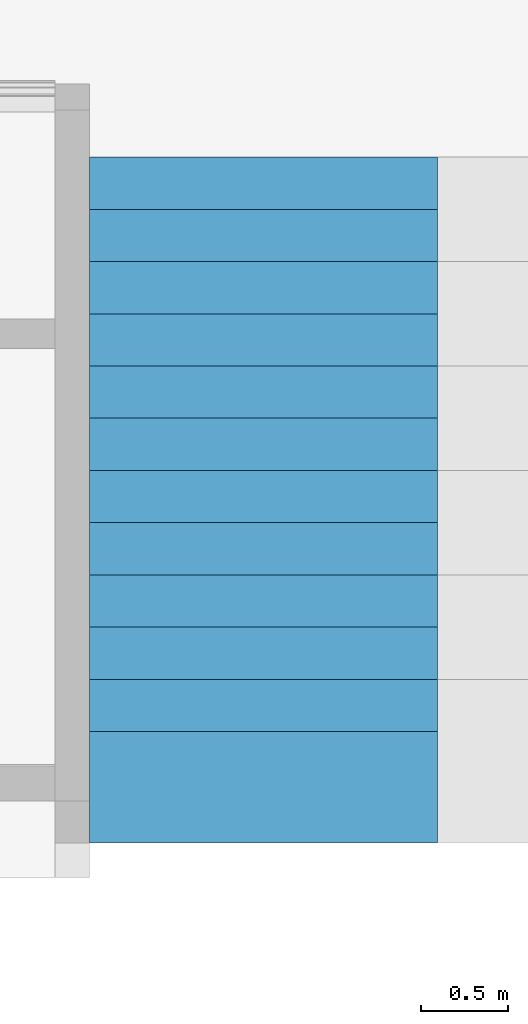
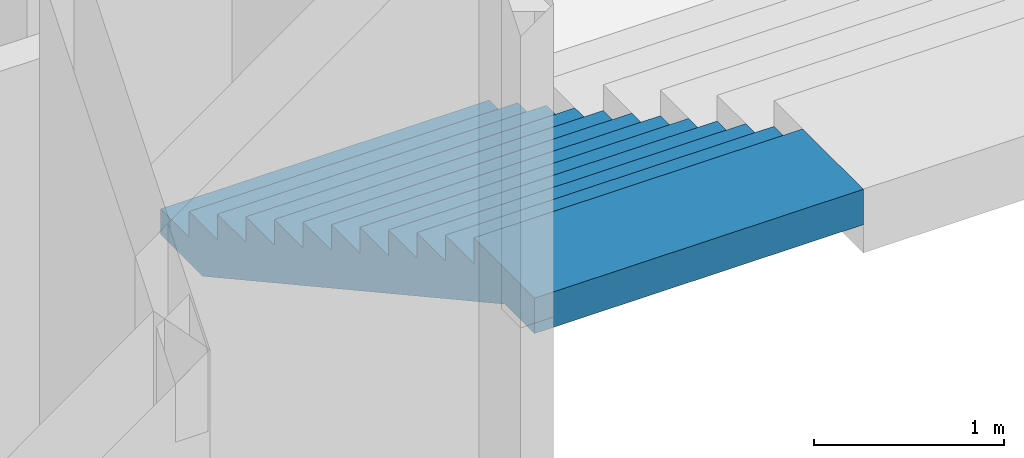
# One storey, part 44 of 89: 1 stair.
"""IFC2X3 building model written with IfcOpenShell, lengths in millimetres."""

from ifc_helpers import new_model, entity, si_unit, converted_unit, derived_unit, money_unit, direction, frame, origin_with_axes, place, context, subcontext, project, spatial, faceted_brep, material, material_list, element, save


model = new_model("IFC2X3")

# Units and contexts
model_context = context("Model", 3, precision=0.01, world=origin_with_axes(), true_north=direction((0.0, 1.0)))
body_context = subcontext(model_context, "Body", "Model", "MODEL_VIEW")
ifc_project = project(units=[si_unit("LENGTHUNIT", "METRE", prefix="MILLI"), si_unit("AREAUNIT", "SQUARE_METRE"), si_unit("VOLUMEUNIT", "CUBIC_METRE"), converted_unit("PLANEANGLEUNIT", "DEGREE", entity("IfcPlaneAngleMeasure", 0.0174532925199), si_unit("PLANEANGLEUNIT", "RADIAN"), dimensions=[0, 0, 0, 0, 0, 0, 0]), si_unit("SOLIDANGLEUNIT", "STERADIAN"), money_unit("EUR"), converted_unit("TIMEUNIT", "Year", entity("IfcTimeMeasure", 31556926.0), si_unit("TIMEUNIT", "SECOND"), dimensions=[0, 0, 1, 0, 0, 0, 0]), si_unit("MASSUNIT", "GRAM", prefix="KILO"), si_unit("THERMODYNAMICTEMPERATUREUNIT", "DEGREE_CELSIUS"), si_unit("LUMINOUSINTENSITYUNIT", "LUMEN"), si_unit("ENERGYUNIT", "JOULE", prefix="MEGA"), derived_unit("THERMALCONDUCTANCEUNIT", [(si_unit("POWERUNIT", "WATT"), 1), (si_unit("LENGTHUNIT", "METRE"), -1), (si_unit("THERMODYNAMICTEMPERATUREUNIT", "KELVIN"), -1)]), derived_unit("SPECIFICHEATCAPACITYUNIT", [(si_unit("ENERGYUNIT", "JOULE"), 1), (si_unit("MASSUNIT", "GRAM", prefix="KILO"), -1), (si_unit("THERMODYNAMICTEMPERATUREUNIT", "KELVIN"), -1)]), derived_unit("MASSDENSITYUNIT", [(si_unit("MASSUNIT", "GRAM", prefix="KILO"), 1), (si_unit("VOLUMEUNIT", "CUBIC_METRE"), -1)])], contexts=[model_context])

# Site, building, storey
site_placement = place(None, origin_with_axes())
site = spatial("IfcSite", under=ifc_project, at=site_placement, Name="Puškini 31, Narva", CompositionType="ELEMENT")
building_placement = place(site_placement, origin_with_axes())
building = spatial("IfcBuilding", under=site, at=building_placement, Name="Narva Riigigümnaasium", CompositionType="ELEMENT")
storey_placement = place(building_placement, frame((0.0, 0.0, -3300.0), z_axis=(0.0, 0.0, 1.0), x_axis=(1.0, 0.0, 0.0)))
storey = spatial("IfcBuildingStorey", under=building, at=storey_placement, Name="1.korrus -3.3", CompositionType="ELEMENT", Elevation=-3300.0)

# Stair
ifc_material_1 = material(Name="Betoon element")
ifc_material_2 = material(Name="Puit - Põrand")
ifc_material_list = material_list([ifc_material_1, ifc_material_2, ifc_material_2, ifc_material_2, ifc_material_2, ifc_material_2, ifc_material_2, ifc_material_2, ifc_material_2, ifc_material_2, ifc_material_2, ifc_material_2, ifc_material_2, ifc_material_2, ifc_material_2, ifc_material_2, ifc_material_2, ifc_material_2, ifc_material_2, ifc_material_2, ifc_material_2, ifc_material_2, ifc_material_2, ifc_material_2, ifc_material_2])
stair_placement = place(storey_placement, frame((36900.062395, 199039.487445, 0.0), z_axis=(0.0, 0.0, 1.0), x_axis=(-1.0, 0.0, 0.0)))
element("IfcStair", 1, at=stair_placement, inside=storey, material=ifc_material_list, Name="G-TR-04", ShapeType="NOTDEFINED", context=body_context, shape_type="Brep", body=[
    faceted_brep([(8.45631120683e-07, 3509.99999987, 1970.0), (8.45631120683e-07, 3509.99999987, 1805.0), (2000.06239531, 3509.99999987, 1805.0), (2000.06239531, 3509.99999987, 1970.0), (8.45631120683e-07, 3799.99999992, 1970.0), (8.45631120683e-07, 3799.99999992, 1980.0), (8.45631120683e-07, 4139.99999992, 1980.0), (8.45631120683e-07, 4139.99999992, 1752.0), (8.45631120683e-07, 3828.64408029, 1752.0), (8.45631120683e-07, 3799.99999992, 1736.2457558), (8.45631120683e-07, 3724.99999991, 1694.9957558), (8.45631120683e-07, 3649.9999999, 1653.7457558), (8.45631120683e-07, 3574.99999988, 1612.4957558), (8.45631120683e-07, 3499.99999987, 1571.2457558), (8.45631120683e-07, 3424.99999986, 1529.9957558), (8.45631120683e-07, 3349.99999985, 1488.7457558), (8.45631120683e-07, 3274.99999984, 1447.4957558), (8.45631120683e-07, 3199.99999982, 1406.2457558), (8.45631120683e-07, 3124.99999981, 1364.9957558), (8.45631120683e-07, 3049.9999998, 1323.7457558), (8.45631120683e-07, 2974.99999979, 1282.4957558), (8.45631120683e-07, 2899.99999977, 1241.2457558), (8.45631120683e-07, 2824.99999976, 1199.9957558), (8.45631120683e-07, 2749.99999975, 1158.7457558), (8.45631120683e-07, 2674.99999974, 1117.4957558), (8.45631120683e-07, 2599.99999973, 1076.2457558), (8.45631120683e-07, 2524.99999971, 1034.9957558), (8.45631120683e-07, 2449.9999997, 993.745755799), (8.45631120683e-07, 2374.99999969, 952.495755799), (8.45631120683e-07, 2299.99999968, 911.245755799), (8.45631120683e-07, 2224.99999966, 869.995755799), (8.45631120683e-07, 2149.99999965, 828.745755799), (8.45631120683e-07, 2074.99999964, 787.495755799), (8.45631120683e-07, 1999.99999963, 746.245755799), (8.45631120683e-07, 1924.99999962, 704.995755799), (8.45624015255e-07, 1849.9999996, 663.745755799), (8.45631120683e-07, 1774.99999959, 622.495755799), (8.45631120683e-07, 1699.99999958, 581.245755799), (8.45624015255e-07, 1624.99999957, 539.995755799), (8.45624015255e-07, 1549.99999956, 498.745755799), (8.45624015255e-07, 1474.99999954, 457.495755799), (8.45624015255e-07, 1399.99999953, 416.245755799), (8.45624015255e-07, 1324.99999952, 374.995755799), (8.45624015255e-07, 1249.99999951, 333.745755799), (8.45631120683e-07, 1174.99999949, 292.495755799), (8.45631120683e-07, 1099.99999948, 251.245755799), (8.45624015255e-07, 1024.99999947, 209.995755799), (8.45624015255e-07, 949.999999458, 168.745755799), (8.45624015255e-07, 874.999999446, 127.495755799), (8.45624015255e-07, 799.999999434, 86.2457557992), (8.45624015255e-07, 724.999999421, 44.9957557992), (8.45624015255e-07, 649.999999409, 3.74575579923), (8.45624015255e-07, 643.189534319, 0.0), (8.45631120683e-07, 209.999999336, 0.0), (8.45631120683e-07, 209.999999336, 155.0), (8.45631120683e-07, 509.999999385, 155.0), (8.45631120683e-07, 509.999999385, 320.0), (8.45631120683e-07, 809.999999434, 320.0), (8.45631120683e-07, 809.999999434, 485.0), (8.45631120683e-07, 1109.99999948, 485.0), (8.45631120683e-07, 1109.99999948, 650.0), (8.45631120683e-07, 1409.99999953, 650.0), (8.45631120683e-07, 1409.99999953, 815.0), (8.45631120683e-07, 1709.99999958, 815.0), (8.45631120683e-07, 1709.99999958, 980.0), (8.45631120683e-07, 2009.99999963, 980.0), (8.45631120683e-07, 2009.99999963, 1145.0), (8.45631120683e-07, 2309.99999968, 1145.0), (8.45631120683e-07, 2309.99999968, 1310.0), (8.45631120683e-07, 2609.99999973, 1310.0), (8.45631120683e-07, 2609.99999973, 1475.0), (8.45631120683e-07, 2909.99999977, 1475.0), (8.45631120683e-07, 2909.99999977, 1640.0), (8.45631120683e-07, 3209.99999982, 1640.0), (8.45631120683e-07, 3209.99999982, 1805.0), (2000.06239531, 3209.99999982, 1805.0), (2000.06239531, 3799.99999992, 1970.0), (2000.06239531, 3209.99999982, 1640.0), (2000.06239531, 2909.99999977, 1640.0), (2000.06239531, 2909.99999977, 1475.0), (2000.06239531, 2609.99999973, 1475.0), (2000.06239531, 2609.99999973, 1310.0), (2000.06239531, 2309.99999968, 1310.0), (2000.06239531, 2309.99999968, 1145.0), (2000.06239531, 2009.99999963, 1145.0), (2000.06239531, 2009.99999963, 980.0), (2000.06239531, 1709.99999958, 980.0), (2000.06239531, 1709.99999958, 815.0), (2000.06239531, 1409.99999953, 815.0), (2000.06239531, 1409.99999953, 650.0), (2000.06239531, 1109.99999948, 650.0), (2000.06239531, 1109.99999948, 485.0), (2000.06239531, 809.999999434, 485.0), (2000.06239531, 809.999999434, 320.0), (2000.06239531, 509.999999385, 320.0), (2000.06239531, 509.999999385, 155.0), (2000.06239531, 209.999999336, 155.0), (2000.06239531, 209.999999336, 0.0), (2000.06239531, 643.189534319, 0.0), (2000.06239531, 649.999999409, 3.74575579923), (2000.06239531, 724.999999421, 44.9957557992), (2000.06239531, 799.999999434, 86.2457557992), (2000.06239531, 874.999999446, 127.495755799), (2000.06239531, 949.999999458, 168.745755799), (2000.06239531, 1024.99999947, 209.995755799), (2000.06239531, 1099.99999948, 251.245755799), (2000.06239531, 1174.99999949, 292.495755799), (2000.06239531, 1249.99999951, 333.745755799), (2000.06239531, 1324.99999952, 374.995755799), (2000.06239531, 1399.99999953, 416.245755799), (2000.06239531, 1474.99999954, 457.495755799), (2000.06239531, 1549.99999956, 498.745755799), (2000.06239531, 1624.99999957, 539.995755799), (2000.06239531, 1699.99999958, 581.245755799), (2000.06239531, 1774.99999959, 622.495755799), (2000.06239531, 1849.9999996, 663.745755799), (2000.06239531, 1924.99999962, 704.995755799), (2000.06239531, 1999.99999963, 746.245755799), (2000.06239531, 2074.99999964, 787.495755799), (2000.06239531, 2149.99999965, 828.745755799), (2000.06239531, 2224.99999966, 869.995755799), (2000.06239531, 2299.99999968, 911.245755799), (2000.06239531, 2374.99999969, 952.495755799), (2000.06239531, 2449.9999997, 993.745755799), (2000.06239531, 2524.99999971, 1034.9957558), (2000.06239531, 2599.99999973, 1076.2457558), (2000.06239531, 2674.99999974, 1117.4957558), (2000.06239531, 2749.99999975, 1158.7457558), (2000.06239531, 2824.99999976, 1199.9957558), (2000.06239531, 2899.99999977, 1241.2457558), (2000.06239531, 2974.99999979, 1282.4957558), (2000.06239531, 3049.9999998, 1323.7457558), (2000.06239531, 3124.99999981, 1364.9957558), (2000.06239531, 3199.99999982, 1406.2457558), (2000.06239531, 3274.99999984, 1447.4957558), (2000.06239531, 3349.99999985, 1488.7457558), (2000.06239531, 3424.99999986, 1529.9957558), (2000.06239531, 3499.99999987, 1571.2457558), (2000.06239531, 3574.99999988, 1612.4957558), (2000.06239531, 3649.9999999, 1653.7457558), (2000.06239531, 3724.99999991, 1694.9957558), (2000.06239531, 3799.99999992, 1736.2457558), (2000.06239531, 3828.64408029, 1752.0), (2000.06239531, 4139.99999992, 1752.0), (2000.06239531, 4139.99999992, 1980.0), (2000.06239531, 3799.99999992, 1980.0)], [[[0, 1, 2, 3]], [[4, 5, 6, 7, 8, 9, 10, 11, 12, 13, 14, 15, 16, 17, 18, 19, 20, 21, 22, 23, 24, 25, 26, 27, 28, 29, 30, 31, 32, 33, 34, 35, 36, 37, 38, 39, 40, 41, 42, 43, 44, 45, 46, 47, 48, 49, 50, 51, 52, 53, 54, 55, 56, 57, 58, 59, 60, 61, 62, 63, 64, 65, 66, 67, 68, 69, 70, 71, 72, 73, 74, 1, 0]], [[1, 74, 75, 2]], [[76, 3, 2, 75, 77, 78, 79, 80, 81, 82, 83, 84, 85, 86, 87, 88, 89, 90, 91, 92, 93, 94, 95, 96, 97, 98, 99, 100, 101, 102, 103, 104, 105, 106, 107, 108, 109, 110, 111, 112, 113, 114, 115, 116, 117, 118, 119, 120, 121, 122, 123, 124, 125, 126, 127, 128, 129, 130, 131, 132, 133, 134, 135, 136, 137, 138, 139, 140, 141, 142, 143, 144, 145]], [[76, 4, 0, 3]], [[5, 4, 76, 145]], [[145, 144, 6, 5]], [[144, 143, 7, 6]], [[143, 142, 8, 7]], [[8, 142, 141, 140, 10, 9]], [[10, 140, 139, 11]], [[11, 139, 138, 12]], [[12, 138, 137, 13]], [[13, 137, 136, 14]], [[14, 136, 135, 15]], [[15, 135, 134, 16]], [[16, 134, 133, 17]], [[17, 133, 132, 18]], [[18, 132, 131, 19]], [[19, 131, 130, 20]], [[20, 130, 129, 21]], [[21, 129, 128, 22]], [[22, 128, 127, 23]], [[23, 127, 126, 24]], [[24, 126, 125, 25]], [[25, 125, 124, 26]], [[26, 124, 123, 27]], [[27, 123, 122, 28]], [[28, 122, 121, 29]], [[29, 121, 120, 30]], [[30, 120, 119, 31]], [[31, 119, 118, 32]], [[32, 118, 117, 33]], [[33, 117, 116, 34]], [[34, 116, 115, 35]], [[35, 115, 114, 36]], [[36, 114, 113, 37]], [[37, 113, 112, 38]], [[38, 112, 111, 39]], [[39, 111, 110, 40]], [[40, 110, 109, 41]], [[41, 109, 108, 42]], [[42, 108, 107, 43]], [[43, 107, 106, 44]], [[44, 106, 105, 45]], [[45, 105, 104, 46]], [[46, 104, 103, 47]], [[47, 103, 102, 48]], [[48, 102, 101, 49]], [[49, 101, 100, 50]], [[50, 100, 99, 51]], [[51, 99, 98, 52]], [[52, 98, 97, 53]], [[96, 54, 53, 97]], [[55, 54, 96, 95]], [[94, 56, 55, 95]], [[57, 56, 94, 93]], [[92, 58, 57, 93]], [[59, 58, 92, 91]], [[90, 60, 59, 91]], [[61, 60, 90, 89]], [[88, 62, 61, 89]], [[63, 62, 88, 87]], [[86, 64, 63, 87]], [[65, 64, 86, 85]], [[84, 66, 65, 85]], [[67, 66, 84, 83]], [[82, 68, 67, 83]], [[69, 68, 82, 81]], [[80, 70, 69, 81]], [[71, 70, 80, 79]], [[78, 72, 71, 79]], [[73, 72, 78, 77]], [[75, 74, 73, 77]]]),
    faceted_brep([(8.45631120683e-07, 199.999999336, 155.0), (2000.06239531, 199.999999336, 155.0), (2000.06239531, 209.999999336, 155.0), (8.45631120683e-07, 209.999999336, 155.0), (8.45631120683e-07, 199.999999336, 0.0), (2000.06239531, 199.999999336, 0.0), (2000.06239531, 209.999999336, 0.0), (8.45631120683e-07, 209.999999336, 0.0)], [[[0, 1, 2, 3]], [[4, 5, 1, 0]], [[1, 5, 6, 2]], [[3, 2, 6, 7]], [[0, 3, 7, 4]], [[7, 6, 5, 4]]]),
    faceted_brep([(8.45631120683e-07, 499.999999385, 320.0), (2000.06239531, 499.999999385, 320.0), (2000.06239531, 509.999999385, 320.0), (8.45631120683e-07, 509.999999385, 320.0), (8.45631120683e-07, 499.999999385, 165.0), (2000.06239531, 499.999999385, 165.0), (2000.06239531, 509.999999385, 165.0), (8.45631120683e-07, 509.999999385, 165.0)], [[[0, 1, 2, 3]], [[4, 5, 1, 0]], [[1, 5, 6, 2]], [[3, 2, 6, 7]], [[0, 3, 7, 4]], [[7, 6, 5, 4]]]),
    faceted_brep([(8.45631120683e-07, 799.999999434, 485.0), (2000.06239531, 799.999999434, 485.0), (2000.06239531, 809.999999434, 485.0), (8.45631120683e-07, 809.999999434, 485.0), (8.45631120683e-07, 799.999999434, 330.0), (2000.06239531, 799.999999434, 330.0), (2000.06239531, 809.999999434, 330.0), (8.45631120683e-07, 809.999999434, 330.0)], [[[0, 1, 2, 3]], [[4, 5, 1, 0]], [[1, 5, 6, 2]], [[3, 2, 6, 7]], [[0, 3, 7, 4]], [[7, 6, 5, 4]]]),
    faceted_brep([(8.45631120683e-07, 1099.99999948, 650.0), (2000.06239531, 1099.99999948, 650.0), (2000.06239531, 1109.99999948, 650.0), (8.45631120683e-07, 1109.99999948, 650.0), (8.45631120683e-07, 1099.99999948, 495.0), (2000.06239531, 1099.99999948, 495.0), (2000.06239531, 1109.99999948, 495.0), (8.45631120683e-07, 1109.99999948, 495.0)], [[[0, 1, 2, 3]], [[4, 5, 1, 0]], [[1, 5, 6, 2]], [[3, 2, 6, 7]], [[0, 3, 7, 4]], [[7, 6, 5, 4]]]),
    faceted_brep([(8.45631120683e-07, 1399.99999953, 815.0), (2000.06239531, 1399.99999953, 815.0), (2000.06239531, 1409.99999953, 815.0), (8.45631120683e-07, 1409.99999953, 815.0), (8.45631120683e-07, 1399.99999953, 660.0), (2000.06239531, 1399.99999953, 660.0), (2000.06239531, 1409.99999953, 660.0), (8.45631120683e-07, 1409.99999953, 660.0)], [[[0, 1, 2, 3]], [[4, 5, 1, 0]], [[1, 5, 6, 2]], [[3, 2, 6, 7]], [[0, 3, 7, 4]], [[7, 6, 5, 4]]]),
    faceted_brep([(8.45631120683e-07, 1699.99999958, 980.0), (2000.06239531, 1699.99999958, 980.0), (2000.06239531, 1709.99999958, 980.0), (8.45631120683e-07, 1709.99999958, 980.0), (8.45631120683e-07, 1699.99999958, 825.0), (2000.06239531, 1699.99999958, 825.0), (2000.06239531, 1709.99999958, 825.0), (8.45631120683e-07, 1709.99999958, 825.0)], [[[0, 1, 2, 3]], [[4, 5, 1, 0]], [[1, 5, 6, 2]], [[3, 2, 6, 7]], [[0, 3, 7, 4]], [[7, 6, 5, 4]]]),
    faceted_brep([(8.45631120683e-07, 1999.99999963, 1145.0), (2000.06239531, 1999.99999963, 1145.0), (2000.06239531, 2009.99999963, 1145.0), (8.45631120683e-07, 2009.99999963, 1145.0), (8.45631120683e-07, 1999.99999963, 990.0), (2000.06239531, 1999.99999963, 990.0), (2000.06239531, 2009.99999963, 990.0), (8.45631120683e-07, 2009.99999963, 990.0)], [[[0, 1, 2, 3]], [[4, 5, 1, 0]], [[1, 5, 6, 2]], [[3, 2, 6, 7]], [[0, 3, 7, 4]], [[7, 6, 5, 4]]]),
    faceted_brep([(8.45631120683e-07, 2299.99999968, 1310.0), (2000.06239531, 2299.99999968, 1310.0), (2000.06239531, 2309.99999968, 1310.0), (8.45631120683e-07, 2309.99999968, 1310.0), (8.45631120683e-07, 2299.99999968, 1155.0), (2000.06239531, 2299.99999968, 1155.0), (2000.06239531, 2309.99999968, 1155.0), (8.45631120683e-07, 2309.99999968, 1155.0)], [[[0, 1, 2, 3]], [[4, 5, 1, 0]], [[1, 5, 6, 2]], [[3, 2, 6, 7]], [[0, 3, 7, 4]], [[7, 6, 5, 4]]]),
    faceted_brep([(8.45631120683e-07, 2599.99999973, 1475.0), (2000.06239531, 2599.99999973, 1475.0), (2000.06239531, 2609.99999973, 1475.0), (8.45631120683e-07, 2609.99999973, 1475.0), (8.45631120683e-07, 2599.99999973, 1320.0), (2000.06239531, 2599.99999973, 1320.0), (2000.06239531, 2609.99999973, 1320.0), (8.45631120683e-07, 2609.99999973, 1320.0)], [[[0, 1, 2, 3]], [[4, 5, 1, 0]], [[1, 5, 6, 2]], [[3, 2, 6, 7]], [[0, 3, 7, 4]], [[7, 6, 5, 4]]]),
    faceted_brep([(8.45631120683e-07, 2899.99999977, 1640.0), (2000.06239531, 2899.99999977, 1640.0), (2000.06239531, 2909.99999977, 1640.0), (8.45631120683e-07, 2909.99999977, 1640.0), (8.45631120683e-07, 2899.99999977, 1485.0), (2000.06239531, 2899.99999977, 1485.0), (2000.06239531, 2909.99999977, 1485.0), (8.45631120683e-07, 2909.99999977, 1485.0)], [[[0, 1, 2, 3]], [[4, 5, 1, 0]], [[1, 5, 6, 2]], [[3, 2, 6, 7]], [[0, 3, 7, 4]], [[7, 6, 5, 4]]]),
    faceted_brep([(8.45631120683e-07, 3199.99999982, 1805.0), (2000.06239531, 3199.99999982, 1805.0), (2000.06239531, 3209.99999982, 1805.0), (8.45631120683e-07, 3209.99999982, 1805.0), (8.45631120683e-07, 3199.99999982, 1650.0), (2000.06239531, 3199.99999982, 1650.0), (2000.06239531, 3209.99999982, 1650.0), (8.45631120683e-07, 3209.99999982, 1650.0)], [[[0, 1, 2, 3]], [[4, 5, 1, 0]], [[1, 5, 6, 2]], [[3, 2, 6, 7]], [[0, 3, 7, 4]], [[7, 6, 5, 4]]]),
    faceted_brep([(8.45631120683e-07, 3499.99999987, 1970.0), (2000.06239531, 3499.99999987, 1970.0), (2000.06239531, 3509.99999987, 1970.0), (8.45631120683e-07, 3509.99999987, 1970.0), (8.45631120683e-07, 3499.99999987, 1815.0), (2000.06239531, 3499.99999987, 1815.0), (2000.06239531, 3509.99999987, 1815.0), (8.45631120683e-07, 3509.99999987, 1815.0)], [[[0, 1, 2, 3]], [[4, 5, 1, 0]], [[1, 5, 6, 2]], [[3, 2, 6, 7]], [[0, 3, 7, 4]], [[7, 6, 5, 4]]]),
    faceted_brep([(2000.06239531, 199.999999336, 155.0), (2000.06239531, 199.999999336, 165.0), (8.45631120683e-07, 199.999999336, 165.0), (8.45631120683e-07, 199.999999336, 155.0), (2000.06239531, 509.999999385, 155.0), (2000.06239531, 509.999999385, 165.0), (8.45631120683e-07, 509.999999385, 165.0), (8.45631120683e-07, 509.999999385, 155.0)], [[[0, 1, 2, 3]], [[4, 5, 1, 0]], [[1, 5, 6, 2]], [[3, 2, 6, 7]], [[0, 3, 7, 4]], [[7, 6, 5, 4]]]),
    faceted_brep([(2000.06239531, 499.999999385, 320.0), (2000.06239531, 499.999999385, 330.0), (8.45631120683e-07, 499.999999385, 330.0), (8.45631120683e-07, 499.999999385, 320.0), (2000.06239531, 809.999999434, 320.0), (2000.06239531, 809.999999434, 330.0), (8.45631120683e-07, 809.999999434, 330.0), (8.45631120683e-07, 809.999999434, 320.0)], [[[0, 1, 2, 3]], [[4, 5, 1, 0]], [[1, 5, 6, 2]], [[3, 2, 6, 7]], [[0, 3, 7, 4]], [[7, 6, 5, 4]]]),
    faceted_brep([(2000.06239531, 799.999999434, 485.0), (2000.06239531, 799.999999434, 495.0), (8.45631120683e-07, 799.999999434, 495.0), (8.45631120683e-07, 799.999999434, 485.0), (2000.06239531, 1109.99999948, 485.0), (2000.06239531, 1109.99999948, 495.0), (8.45631120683e-07, 1109.99999948, 495.0), (8.45631120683e-07, 1109.99999948, 485.0)], [[[0, 1, 2, 3]], [[4, 5, 1, 0]], [[1, 5, 6, 2]], [[3, 2, 6, 7]], [[0, 3, 7, 4]], [[7, 6, 5, 4]]]),
    faceted_brep([(2000.06239531, 1099.99999948, 650.0), (2000.06239531, 1099.99999948, 660.0), (8.45631120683e-07, 1099.99999948, 660.0), (8.45631120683e-07, 1099.99999948, 650.0), (2000.06239531, 1409.99999953, 650.0), (2000.06239531, 1409.99999953, 660.0), (8.45631120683e-07, 1409.99999953, 660.0), (8.45631120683e-07, 1409.99999953, 650.0)], [[[0, 1, 2, 3]], [[4, 5, 1, 0]], [[1, 5, 6, 2]], [[3, 2, 6, 7]], [[0, 3, 7, 4]], [[7, 6, 5, 4]]]),
    faceted_brep([(2000.06239531, 1399.99999953, 815.0), (2000.06239531, 1399.99999953, 825.0), (8.45631120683e-07, 1399.99999953, 825.0), (8.45631120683e-07, 1399.99999953, 815.0), (2000.06239531, 1709.99999958, 815.0), (2000.06239531, 1709.99999958, 825.0), (8.45631120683e-07, 1709.99999958, 825.0), (8.45631120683e-07, 1709.99999958, 815.0)], [[[0, 1, 2, 3]], [[4, 5, 1, 0]], [[1, 5, 6, 2]], [[3, 2, 6, 7]], [[0, 3, 7, 4]], [[7, 6, 5, 4]]]),
    faceted_brep([(2000.06239531, 1699.99999958, 980.0), (2000.06239531, 1699.99999958, 990.0), (8.45631120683e-07, 1699.99999958, 990.0), (8.45631120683e-07, 1699.99999958, 980.0), (2000.06239531, 2009.99999963, 980.0), (2000.06239531, 2009.99999963, 990.0), (8.45631120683e-07, 2009.99999963, 990.0), (8.45631120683e-07, 2009.99999963, 980.0)], [[[0, 1, 2, 3]], [[4, 5, 1, 0]], [[1, 5, 6, 2]], [[3, 2, 6, 7]], [[0, 3, 7, 4]], [[7, 6, 5, 4]]]),
    faceted_brep([(2000.06239531, 1999.99999963, 1145.0), (2000.06239531, 1999.99999963, 1155.0), (8.45631120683e-07, 1999.99999963, 1155.0), (8.45631120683e-07, 1999.99999963, 1145.0), (2000.06239531, 2309.99999968, 1145.0), (2000.06239531, 2309.99999968, 1155.0), (8.45631120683e-07, 2309.99999968, 1155.0), (8.45631120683e-07, 2309.99999968, 1145.0)], [[[0, 1, 2, 3]], [[4, 5, 1, 0]], [[1, 5, 6, 2]], [[3, 2, 6, 7]], [[0, 3, 7, 4]], [[7, 6, 5, 4]]]),
    faceted_brep([(2000.06239531, 2299.99999968, 1310.0), (2000.06239531, 2299.99999968, 1320.0), (8.45631120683e-07, 2299.99999968, 1320.0), (8.45631120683e-07, 2299.99999968, 1310.0), (2000.06239531, 2609.99999973, 1310.0), (2000.06239531, 2609.99999973, 1320.0), (8.45631120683e-07, 2609.99999973, 1320.0), (8.45631120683e-07, 2609.99999973, 1310.0)], [[[0, 1, 2, 3]], [[4, 5, 1, 0]], [[1, 5, 6, 2]], [[3, 2, 6, 7]], [[0, 3, 7, 4]], [[7, 6, 5, 4]]]),
    faceted_brep([(2000.06239531, 2599.99999973, 1475.0), (2000.06239531, 2599.99999973, 1485.0), (8.45631120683e-07, 2599.99999973, 1485.0), (8.45631120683e-07, 2599.99999973, 1475.0), (2000.06239531, 2909.99999977, 1475.0), (2000.06239531, 2909.99999977, 1485.0), (8.45631120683e-07, 2909.99999977, 1485.0), (8.45631120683e-07, 2909.99999977, 1475.0)], [[[0, 1, 2, 3]], [[4, 5, 1, 0]], [[1, 5, 6, 2]], [[3, 2, 6, 7]], [[0, 3, 7, 4]], [[7, 6, 5, 4]]]),
    faceted_brep([(2000.06239531, 2899.99999977, 1640.0), (2000.06239531, 2899.99999977, 1650.0), (8.45631120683e-07, 2899.99999977, 1650.0), (8.45631120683e-07, 2899.99999977, 1640.0), (2000.06239531, 3209.99999982, 1640.0), (2000.06239531, 3209.99999982, 1650.0), (8.45631120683e-07, 3209.99999982, 1650.0), (8.45631120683e-07, 3209.99999982, 1640.0)], [[[0, 1, 2, 3]], [[4, 5, 1, 0]], [[1, 5, 6, 2]], [[3, 2, 6, 7]], [[0, 3, 7, 4]], [[7, 6, 5, 4]]]),
    faceted_brep([(2000.06239531, 3199.99999982, 1805.0), (2000.06239531, 3199.99999982, 1815.0), (8.45631120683e-07, 3199.99999982, 1815.0), (8.45631120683e-07, 3199.99999982, 1805.0), (2000.06239531, 3509.99999987, 1805.0), (2000.06239531, 3509.99999987, 1815.0), (8.45631120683e-07, 3509.99999987, 1815.0), (8.45631120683e-07, 3433.97458358, 1815.0), (8.45631120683e-07, 3433.97458358, 1805.0), (8.45631120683e-07, 3509.99999987, 1805.0)], [[[0, 1, 2, 3]], [[4, 5, 1, 0]], [[1, 5, 6, 7, 2]], [[3, 2, 7, 8]], [[0, 3, 8, 9, 4]], [[9, 6, 5, 4]], [[8, 7, 6, 9]]]),
    faceted_brep([(2000.06239531, 3499.99999987, 1970.0), (2000.06239531, 3499.99999987, 1980.0), (8.45631120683e-07, 3499.99999987, 1980.0), (8.45631120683e-07, 3499.99999987, 1970.0), (2000.06239531, 3799.99999992, 1970.0), (2000.06239531, 3799.99999992, 1980.0), (8.45631120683e-07, 3799.99999992, 1980.0), (8.45631120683e-07, 3799.99999992, 1970.0)], [[[0, 1, 2, 3]], [[4, 5, 1, 0]], [[1, 5, 6, 2]], [[3, 2, 6, 7]], [[0, 3, 7, 4]], [[7, 6, 5, 4]]]),
])

save(model, "model.ifc")
